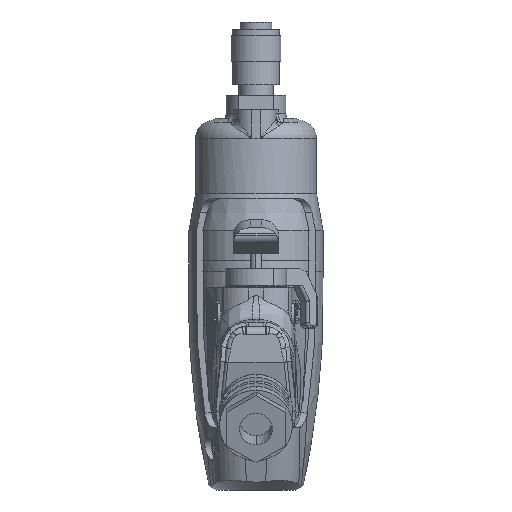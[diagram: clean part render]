
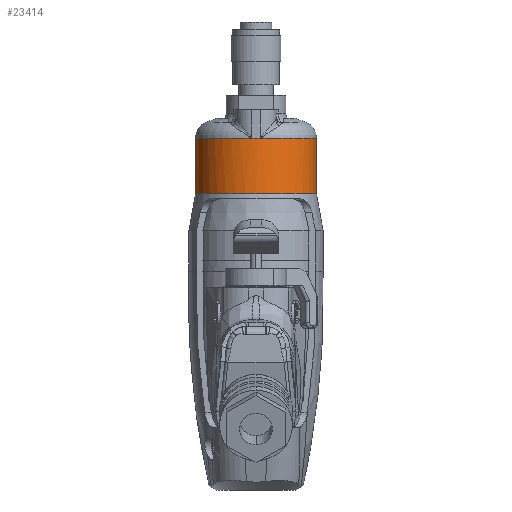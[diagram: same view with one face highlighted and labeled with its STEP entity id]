
A CAD part, front view. The second image highlights one B-rep face of the part: STEP entity #23414.
In plain terms, the highlighted cylindrical face has radius 21.25 mm (diameter 42.5 mm), a partial arc.
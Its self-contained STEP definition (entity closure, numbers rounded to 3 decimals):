
#637 = VERTEX_POINT ( 'NONE', #1299 ) ;
#1299 = CARTESIAN_POINT ( 'NONE',  ( -2.011, -21.155, -26.986 ) ) ;
#3760 = VERTEX_POINT ( 'NONE', #35491 ) ;
#4495 = DIRECTION ( 'NONE',  ( 1., 0., 0. ) ) ;
#7285 = EDGE_CURVE ( 'NONE', #13817, #32185, #38773, .T. ) ;
#8900 = AXIS2_PLACEMENT_3D ( 'NONE', #14100, #47214, #18869 ) ;
#9276 = DIRECTION ( 'NONE',  ( 0., 0., -1. ) ) ;
#11526 = CIRCLE ( 'NONE', #45172, 21.25 ) ;
#12088 = VERTEX_POINT ( 'NONE', #15777 ) ;
#12485 = LINE ( 'NONE', #29372, #23593 ) ;
#13817 = VERTEX_POINT ( 'NONE', #48394 ) ;
#14100 = CARTESIAN_POINT ( 'NONE',  ( 0., 0., -46.565 ) ) ;
#14638 = EDGE_CURVE ( 'NONE', #3760, #13817, #57869, .T. ) ;
#14649 = CARTESIAN_POINT ( 'NONE',  ( 21.25, 0., -12. ) ) ;
#14953 = CARTESIAN_POINT ( 'NONE',  ( 0., 0., -26.986 ) ) ;
#14974 = AXIS2_PLACEMENT_3D ( 'NONE', #14953, #32901, #4495 ) ;
#15148 = ORIENTED_EDGE ( 'NONE', *, *, #40349, .T. ) ;
#15777 = CARTESIAN_POINT ( 'NONE',  ( -21.25, 0., -46.565 ) ) ;
#18869 = DIRECTION ( 'NONE',  ( -1., 0., 0. ) ) ;
#20943 = AXIS2_PLACEMENT_3D ( 'NONE', #49994, #45435, #40691 ) ;
#22947 = DIRECTION ( 'NONE',  ( 0., 0., -1. ) ) ;
#23414 = ADVANCED_FACE ( 'NONE', ( #27504 ), #25985, .T. ) ;
#23593 = VECTOR ( 'NONE', #24800, 1000. ) ;
#24800 = DIRECTION ( 'NONE',  ( 0., 0., 1. ) ) ;
#25985 = CYLINDRICAL_SURFACE ( 'NONE', #20943, 21.25 ) ;
#26925 = CIRCLE ( 'NONE', #8900, 21.25 ) ;
#27504 = FACE_OUTER_BOUND ( 'NONE', #33739, .T. ) ;
#29372 = CARTESIAN_POINT ( 'NONE',  ( -21.25, 0., -12. ) ) ;
#32185 = VERTEX_POINT ( 'NONE', #45750 ) ;
#32901 = DIRECTION ( 'NONE',  ( 0., 0., -1. ) ) ;
#33739 = EDGE_LOOP ( 'NONE', ( #53864, #58968, #42443, #34256, #40082, #15148 ) ) ;
#34256 = ORIENTED_EDGE ( 'NONE', *, *, #7285, .T. ) ;
#34805 = EDGE_CURVE ( 'NONE', #12088, #3760, #26925, .T. ) ;
#35491 = CARTESIAN_POINT ( 'NONE',  ( 21.25, 0., -46.565 ) ) ;
#37654 = CARTESIAN_POINT ( 'NONE',  ( 0., 0., -26.986 ) ) ;
#38773 = CIRCLE ( 'NONE', #49076, 21.25 ) ;
#39866 = CARTESIAN_POINT ( 'NONE',  ( -21.25, 0., -26.986 ) ) ;
#40082 = ORIENTED_EDGE ( 'NONE', *, *, #58169, .T. ) ;
#40349 = EDGE_CURVE ( 'NONE', #637, #61235, #11526, .T. ) ;
#40691 = DIRECTION ( 'NONE',  ( 1., 0., 0. ) ) ;
#41060 = CIRCLE ( 'NONE', #14974, 21.25 ) ;
#42409 = DIRECTION ( 'NONE',  ( 1., 0., 0. ) ) ;
#42443 = ORIENTED_EDGE ( 'NONE', *, *, #14638, .T. ) ;
#45172 = AXIS2_PLACEMENT_3D ( 'NONE', #37654, #9276, #42409 ) ;
#45295 = VECTOR ( 'NONE', #52528, 1000. ) ;
#45435 = DIRECTION ( 'NONE',  ( 0., 0., 1. ) ) ;
#45750 = CARTESIAN_POINT ( 'NONE',  ( 2.011, -21.155, -26.986 ) ) ;
#47214 = DIRECTION ( 'NONE',  ( 0., 0., 1. ) ) ;
#48394 = CARTESIAN_POINT ( 'NONE',  ( 21.25, 0., -26.986 ) ) ;
#49076 = AXIS2_PLACEMENT_3D ( 'NONE', #51308, #22947, #56070 ) ;
#49994 = CARTESIAN_POINT ( 'NONE',  ( 0., 0., -12. ) ) ;
#51308 = CARTESIAN_POINT ( 'NONE',  ( 0., 0., -26.986 ) ) ;
#52528 = DIRECTION ( 'NONE',  ( 0., 0., 1. ) ) ;
#53249 = EDGE_CURVE ( 'NONE', #12088, #61235, #12485, .T. ) ;
#53864 = ORIENTED_EDGE ( 'NONE', *, *, #53249, .F. ) ;
#56070 = DIRECTION ( 'NONE',  ( 1., 0., 0. ) ) ;
#57869 = LINE ( 'NONE', #14649, #45295 ) ;
#58169 = EDGE_CURVE ( 'NONE', #32185, #637, #41060, .T. ) ;
#58968 = ORIENTED_EDGE ( 'NONE', *, *, #34805, .T. ) ;
#61235 = VERTEX_POINT ( 'NONE', #39866 ) ;
